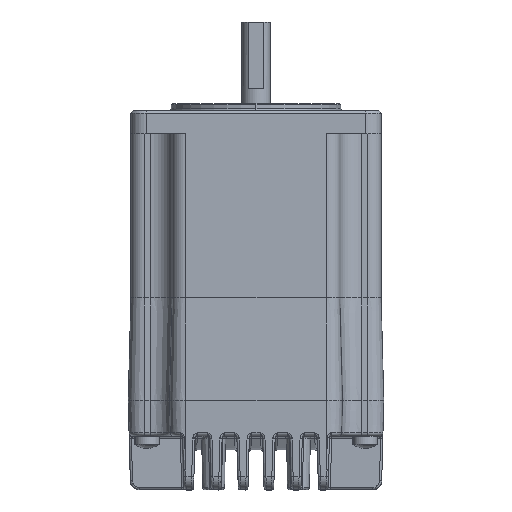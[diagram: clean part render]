
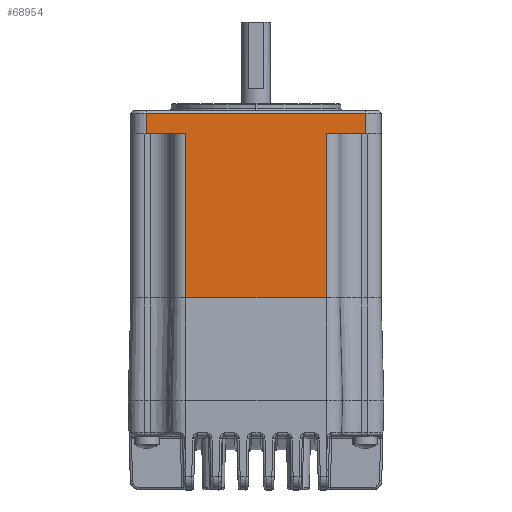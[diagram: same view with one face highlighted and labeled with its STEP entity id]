
A CAD part, top view. The second image highlights one B-rep face of the part: STEP entity #68954.
In plain terms, the highlighted planar face has unit normal (0, 0, 1).
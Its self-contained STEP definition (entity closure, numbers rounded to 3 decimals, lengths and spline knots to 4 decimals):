
#753=DIRECTION('',(1.,0.,0.));
#754=VECTOR('',#753,1.2441);
#755=CARTESIAN_POINT('',(-0.6794,-0.7386,
1.2948));
#756=LINE('',#755,#754);
#12568=DIRECTION('',(0.,1.,0.));
#12569=VECTOR('',#12568,1.4528);
#12570=CARTESIAN_POINT('',(0.5647,-0.7386,
1.2948));
#12571=LINE('',#12570,#12569);
#12572=DIRECTION('',(1.,0.,0.));
#12573=VECTOR('',#12572,0.3465);
#12574=CARTESIAN_POINT('',(-1.0259,0.7141,
1.2948));
#12575=LINE('',#12574,#12573);
#12576=DIRECTION('',(1.,0.,0.));
#12577=VECTOR('',#12576,0.3465);
#12578=CARTESIAN_POINT('',(0.5647,0.7141,
1.2948));
#12579=LINE('',#12578,#12577);
#12580=DIRECTION('',(0.,-1.,0.));
#12581=VECTOR('',#12580,1.4528);
#12582=CARTESIAN_POINT('',(-0.6794,0.7141,
1.2948));
#12583=LINE('',#12582,#12581);
#12642=DIRECTION('',(0.,1.,0.));
#12643=VECTOR('',#12642,0.1811);
#12644=CARTESIAN_POINT('',(-1.0259,0.7141,
1.2948));
#12645=LINE('',#12644,#12643);
#12663=DIRECTION('',(1.,0.,0.));
#12664=VECTOR('',#12663,1.937);
#12665=CARTESIAN_POINT('',(-1.0259,0.8952,
1.2948));
#12666=LINE('',#12665,#12664);
#13321=DIRECTION('',(0.,-1.,0.));
#13322=VECTOR('',#13321,0.1811);
#13323=CARTESIAN_POINT('',(0.9111,0.8952,
1.2948));
#13324=LINE('',#13323,#13322);
#49849=CARTESIAN_POINT('',(0.5647,-0.7386,
1.2948));
#49850=VERTEX_POINT('',#49849);
#49851=CARTESIAN_POINT('',(-0.6794,-0.7386,
1.2948));
#49852=VERTEX_POINT('',#49851);
#49891=CARTESIAN_POINT('',(0.5647,0.7141,
1.2948));
#49892=CARTESIAN_POINT('',(0.9111,0.7141,
1.2948));
#49893=VERTEX_POINT('',#49891);
#49894=VERTEX_POINT('',#49892);
#50063=CARTESIAN_POINT('',(0.9111,0.8952,
1.2948));
#50064=VERTEX_POINT('',#50063);
#50065=CARTESIAN_POINT('',(-1.0259,0.8952,
1.2948));
#50066=VERTEX_POINT('',#50065);
#50067=CARTESIAN_POINT('',(-1.0259,0.7141,
1.2948));
#50068=VERTEX_POINT('',#50067);
#50071=CARTESIAN_POINT('',(-0.6794,0.7141,
1.2948));
#50072=VERTEX_POINT('',#50071);
#68933=CARTESIAN_POINT('',(0.5647,-0.7386,
1.2948));
#68934=DIRECTION('',(0.,0.,-1.));
#68935=DIRECTION('',(1.,0.,0.));
#68936=AXIS2_PLACEMENT_3D('',#68933,#68934,#68935);
#68937=PLANE('',#68936);
#68939=ORIENTED_EDGE('',*,*,#68938,.F.);
#68941=ORIENTED_EDGE('',*,*,#68940,.F.);
#68943=ORIENTED_EDGE('',*,*,#68942,.T.);
#68945=ORIENTED_EDGE('',*,*,#68944,.T.);
#68947=ORIENTED_EDGE('',*,*,#68946,.T.);
#68949=ORIENTED_EDGE('',*,*,#68948,.F.);
#68950=ORIENTED_EDGE('',*,*,#68923,.F.);
#68951=ORIENTED_EDGE('',*,*,#54418,.F.);
#68952=EDGE_LOOP('',(#68939,#68941,#68943,#68945,#68947,#68949,#68950,#68951));
#68953=FACE_OUTER_BOUND('',#68952,.F.);
#68954=ADVANCED_FACE('',(#68953),#68937,.F.);
#54418=EDGE_CURVE('',#49852,#49850,#756,.T.);
#68923=EDGE_CURVE('',#49850,#49893,#12571,.T.);
#68938=EDGE_CURVE('',#50072,#49852,#12583,.T.);
#68940=EDGE_CURVE('',#50068,#50072,#12575,.T.);
#68942=EDGE_CURVE('',#50068,#50066,#12645,.T.);
#68944=EDGE_CURVE('',#50066,#50064,#12666,.T.);
#68946=EDGE_CURVE('',#50064,#49894,#13324,.T.);
#68948=EDGE_CURVE('',#49893,#49894,#12579,.T.);
